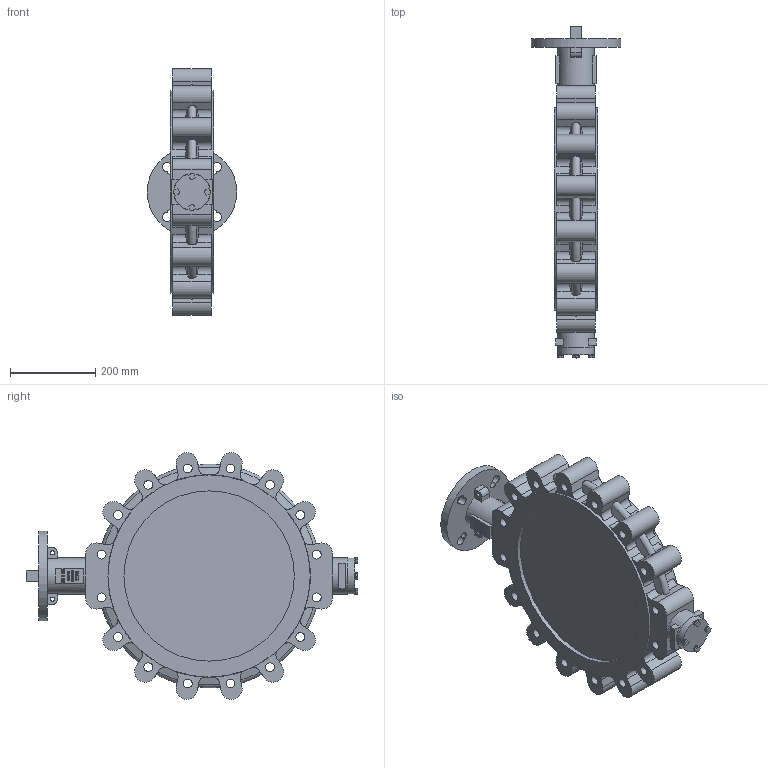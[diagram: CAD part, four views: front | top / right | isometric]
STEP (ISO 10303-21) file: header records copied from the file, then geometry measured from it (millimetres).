
FILE_DESCRIPTION(/* description */ (''),/* implementation_level */ '2;1');
FILE_NAME(/* name */ '6820-DN400-PN10-NBR - 13492663.stp',/* time_stamp */ '2024-09-05T08:04:33+02:00',/* author */ ('roger.thijssen'),/* organization */ (''),/* preprocessor_version */ 'ST-DEVELOPER v20',/* originating_system */ 'Autodesk Inventor 2024',/* authorisation */ '');
FILE_SCHEMA (('AUTOMOTIVE_DESIGN { 1 0 10303 214 3 1 1 }'));
Length unit declared in the file: millimetre
Products named in the file (1): 6820-DN400-PN10
Bounding box: 210 x 779.55 x 579.42 mm (x, y, z)
Volume: 21361038.6 mm3; surface area: 964189.2 mm2
Topology: 1 solids, 1 shells, 670 faces, 1818 edges, 1193 vertices
Faces by surface type: plane 361, cylinder 143, bspline 119, cone 33, torus 14
Full cylindrical faces by diameter (mm): 6.647 x1, 10 x2, 12.88 x4, 20.752 x16, 84.8 x1, 85 x2, 210 x1, 400 x2, 475 x2
Entity records: 23986 total; most frequent: CARTESIAN_POINT 7060, ORIENTED_EDGE 3634, DIRECTION 2937, EDGE_CURVE 1817, VERTEX_POINT 1193, LINE 1029, VECTOR 1029, AXIS2_PLACEMENT_3D 954
